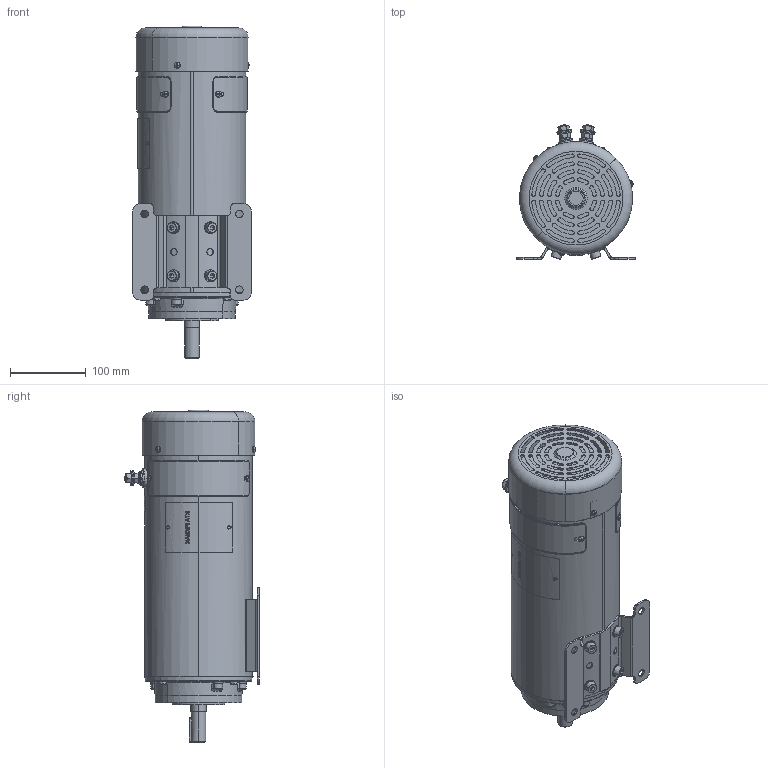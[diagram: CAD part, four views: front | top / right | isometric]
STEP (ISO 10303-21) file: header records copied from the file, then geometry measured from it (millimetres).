
FILE_DESCRIPTION (( 'STEP AP203' ), '1' );
FILE_NAME ('031074-ZL80_RevC.STEP', '2018-11-01T12:06:42', ( '' ), ( '' ), 'SwSTEP 2.0', 'SolidWorks 2015', '' );
FILE_SCHEMA (( 'CONFIG_CONTROL_DESIGN' ));
Length unit declared in the file: inch
Products named in the file (1): 031074-ZL80_RevC
Bounding box: 155.96 x 177.35 x 437.92 mm (x, y, z)
Volume: 776180.9 mm3; surface area: 636650.7 mm2
Topology: 60 solids, 60 shells, 2797 faces, 6766 edges, 4129 vertices
Faces by surface type: plane 837, cylinder 760, bspline 446, cone 339, torus 322, sphere 93
Entity records: 106842 total; most frequent: CARTESIAN_POINT 43675, ORIENTED_EDGE 13396, DIRECTION 12961, EDGE_CURVE 6698, AXIS2_PLACEMENT_3D 5375, VERTEX_POINT 4129, EDGE_LOOP 3125, CIRCLE 3023
